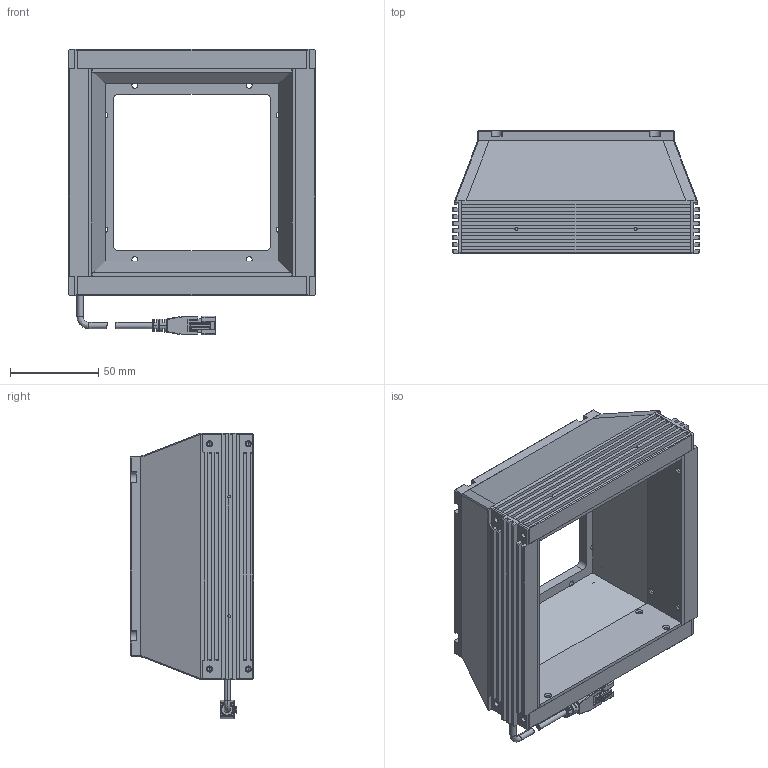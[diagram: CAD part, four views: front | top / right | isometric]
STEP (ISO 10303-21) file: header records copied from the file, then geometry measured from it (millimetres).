
FILE_DESCRIPTION (( 'STEP AP203' ), '1' );
FILE_NAME ('SPQ-140-140-DG-潠眢3D芞.STEP', '2022-02-22T01:59:59', ( 'China' ), ( 'Home' ), 'SwSTEP 2.0', 'SolidWorks 2018', '' );
FILE_SCHEMA (( 'CONFIG_CONTROL_DESIGN' ));
Length unit declared in the file: millimetre
Products named in the file (1): SPQ-140-140-DG-潠眢3D芞
Bounding box: 140 x 70 x 162.25 mm (x, y, z)
Surface area: 173699.8 mm2 (no closed solid volume)
Topology: 0 solids, 15 shells, 879 faces, 2368 edges, 1469 vertices
Faces by surface type: plane 494, cylinder 245, cone 106, bspline 28, torus 6
Entity records: 27529 total; most frequent: CARTESIAN_POINT 5535, ORIENTED_EDGE 4525, DIRECTION 4509, EDGE_CURVE 2288, VECTOR 1647, LINE 1647, VERTEX_POINT 1469, AXIS2_PLACEMENT_3D 1431
